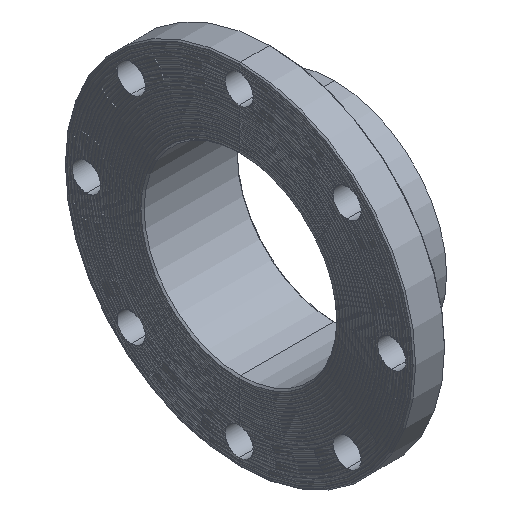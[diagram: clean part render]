
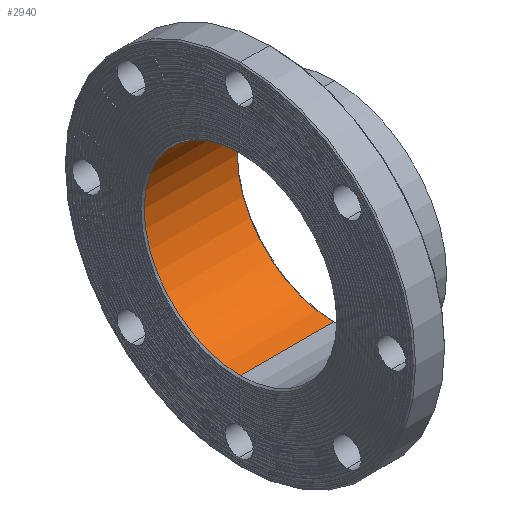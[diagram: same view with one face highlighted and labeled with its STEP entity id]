
A CAD part, isometric view. The second image highlights one B-rep face of the part: STEP entity #2940.
In plain terms, the highlighted cylindrical face has radius 76.2 mm (diameter 152.4 mm), a partial arc.
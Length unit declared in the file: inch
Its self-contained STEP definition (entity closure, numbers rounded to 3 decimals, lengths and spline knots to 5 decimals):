
#205 = CARTESIAN_POINT ( 'NONE',  ( 0.05, 0., -3. ) ) ;
#343 = DIRECTION ( 'NONE',  ( 0., 0., 1. ) ) ;
#661 = DIRECTION ( 'NONE',  ( -1., 0., 0. ) ) ;
#766 = LINE ( 'NONE', #4575, #1982 ) ;
#897 = EDGE_CURVE ( 'NONE', #8863, #4570, #1222, .T. ) ;
#1001 = ORIENTED_EDGE ( 'NONE', *, *, #897, .F. ) ;
#1069 = DIRECTION ( 'NONE',  ( -1., 0., 0. ) ) ;
#1158 = LINE ( 'NONE', #8232, #7255 ) ;
#1222 = CIRCLE ( 'NONE', #8490, 3. ) ;
#1752 = FACE_OUTER_BOUND ( 'NONE', #6905, .T. ) ;
#1852 = EDGE_CURVE ( 'NONE', #4570, #4888, #766, .T. ) ;
#1982 = VECTOR ( 'NONE', #4502, 39.37008 ) ;
#2273 = CARTESIAN_POINT ( 'NONE',  ( 0., 0., 0. ) ) ;
#2488 = EDGE_CURVE ( 'NONE', #4869, #4888, #8730, .T. ) ;
#2662 = ORIENTED_EDGE ( 'NONE', *, *, #1852, .F. ) ;
#2782 = DIRECTION ( 'NONE',  ( 0., 0., 1. ) ) ;
#2940 = ADVANCED_FACE ( 'NONE', ( #1752 ), #4938, .F. ) ;
#3586 = ORIENTED_EDGE ( 'NONE', *, *, #2488, .T. ) ;
#3636 = DIRECTION ( 'NONE',  ( -1., 0., 0. ) ) ;
#3982 = CARTESIAN_POINT ( 'NONE',  ( 2.95, 0., -3. ) ) ;
#4443 = CARTESIAN_POINT ( 'NONE',  ( 0.05, 0., 3. ) ) ;
#4491 = DIRECTION ( 'NONE',  ( -1., 0., 0. ) ) ;
#4502 = DIRECTION ( 'NONE',  ( -1., 0., 0. ) ) ;
#4558 = AXIS2_PLACEMENT_3D ( 'NONE', #7342, #4491, #343 ) ;
#4570 = VERTEX_POINT ( 'NONE', #3982 ) ;
#4575 = CARTESIAN_POINT ( 'NONE',  ( 0., 0., -3. ) ) ;
#4869 = VERTEX_POINT ( 'NONE', #4443 ) ;
#4888 = VERTEX_POINT ( 'NONE', #205 ) ;
#4938 = CYLINDRICAL_SURFACE ( 'NONE', #8725, 3. ) ;
#5674 = CARTESIAN_POINT ( 'NONE',  ( 2.95, 0., 3. ) ) ;
#6315 = CARTESIAN_POINT ( 'NONE',  ( 2.95, 0., 0. ) ) ;
#6495 = EDGE_CURVE ( 'NONE', #8863, #4869, #1158, .T. ) ;
#6867 = ORIENTED_EDGE ( 'NONE', *, *, #6495, .T. ) ;
#6905 = EDGE_LOOP ( 'NONE', ( #2662, #1001, #6867, #3586 ) ) ;
#7255 = VECTOR ( 'NONE', #1069, 39.37008 ) ;
#7342 = CARTESIAN_POINT ( 'NONE',  ( 0.05, 0., 0. ) ) ;
#8012 = DIRECTION ( 'NONE',  ( 0., 0., 1. ) ) ;
#8232 = CARTESIAN_POINT ( 'NONE',  ( 0., 0., 3. ) ) ;
#8490 = AXIS2_PLACEMENT_3D ( 'NONE', #6315, #661, #2782 ) ;
#8725 = AXIS2_PLACEMENT_3D ( 'NONE', #2273, #3636, #8012 ) ;
#8730 = CIRCLE ( 'NONE', #4558, 3. ) ;
#8863 = VERTEX_POINT ( 'NONE', #5674 ) ;
